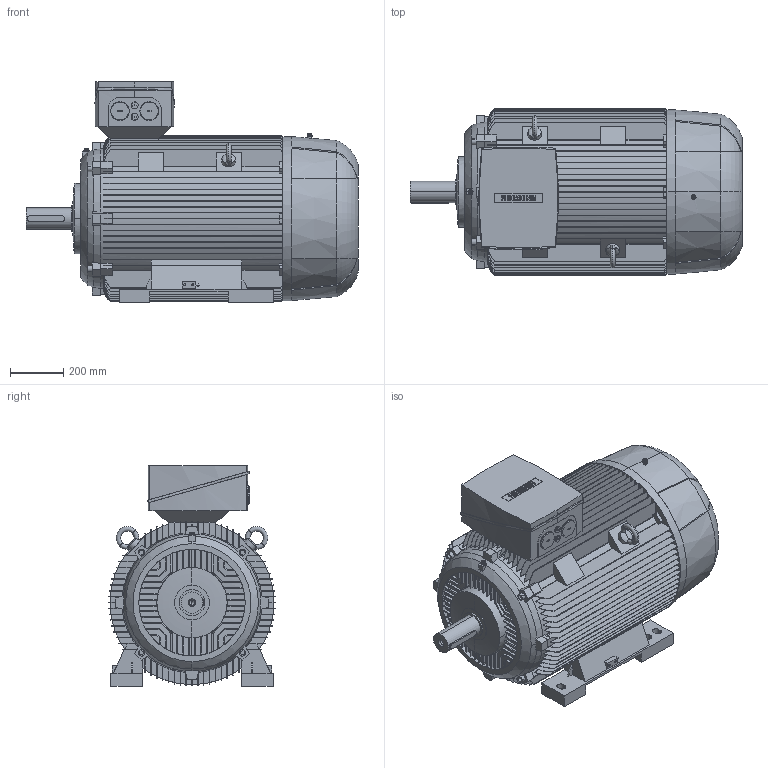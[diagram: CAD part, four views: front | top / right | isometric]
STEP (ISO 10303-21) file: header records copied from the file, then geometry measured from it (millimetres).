
FILE_DESCRIPTION(('STEP AP214'),'1');
FILE_NAME('cctmp_B2F88419-6084-4887-995B-FC86A4B4DF70_2021_11_4_19_19_45_390..stp','2021-11-04T18:19:46',('SIEMENS A&D'),('CADClick - www.CADClick.com'),'Spatial InterOp 3D',' ','unknown authorization');
FILE_SCHEMA(('AUTOMOTIVE_DESIGN'));
Length unit declared in the file: millimetre
Products named in the file (1): 1
Bounding box: 1247 x 626 x 830 mm (x, y, z)
Volume: 276816170.6 mm3; surface area: 8160834.2 mm2
Topology: 7 solids, 7 shells, 1613 faces, 4580 edges, 3019 vertices
Faces by surface type: plane 1034, cylinder 331, torus 212, cone 36
Entity records: 77214 total; most frequent: CARTESIAN_POINT 22820, ORIENTED_EDGE 9140, DIRECTION 8181, EDGE_CURVE 4570, VERTEX_POINT 3019, AXIS2_PLACEMENT_3D 2785, LINE 2611, VECTOR 2611
